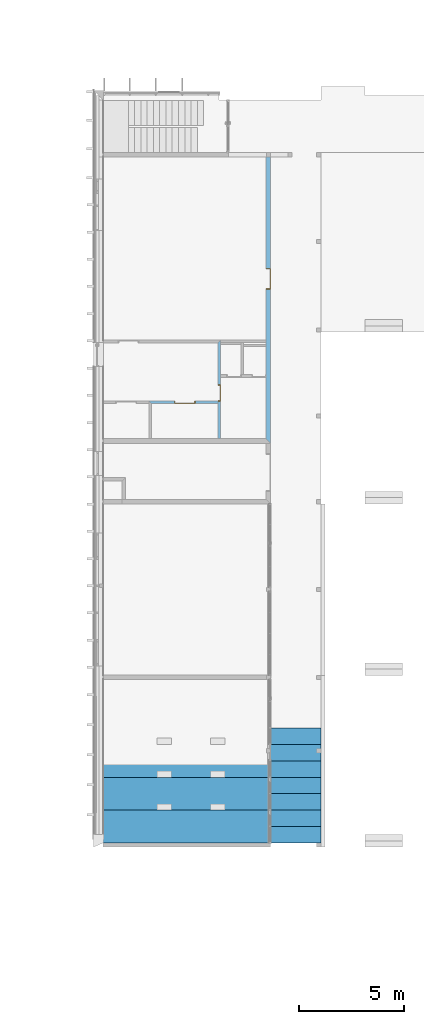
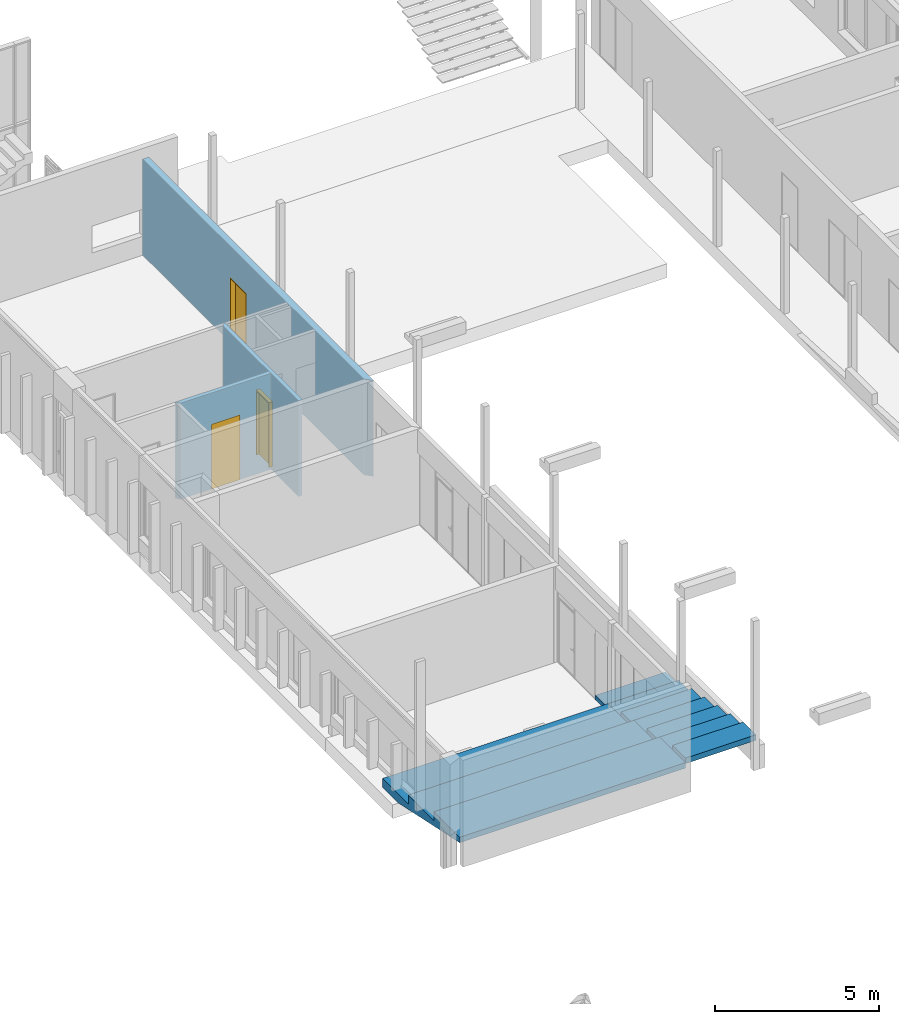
# One storey, part 27 of 65: 3 doors, 2 stairs, 3 openings, plus 3 elements that do not belong to this part.
"""IFC2X3 building model written with IfcOpenShell, lengths in millimetres."""

from ifc_helpers import new_model, entity, si_unit, converted_unit, derived_unit, money_unit, direction, frame, origin_with_axes, origin_2d_with_axis, place, context, subcontext, project, spatial, polyline, rectangle, outline, extrude, faceted_brep, material, layer, layer_set, layer_usage, type_object, element, fill, save


model = new_model("IFC2X3")

# Units and contexts
model_context = context("Model", 3, precision=0.01, world=origin_with_axes(), true_north=direction((0.0, 1.0)))
body_context = subcontext(model_context, "Body", "Model", "MODEL_VIEW")
ifc_project = project(units=[si_unit("LENGTHUNIT", "METRE", prefix="MILLI"), si_unit("AREAUNIT", "SQUARE_METRE"), si_unit("VOLUMEUNIT", "CUBIC_METRE"), converted_unit("PLANEANGLEUNIT", "DEGREE", entity("IfcPlaneAngleMeasure", 0.0174532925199), si_unit("PLANEANGLEUNIT", "RADIAN"), dimensions=[0, 0, 0, 0, 0, 0, 0]), si_unit("SOLIDANGLEUNIT", "STERADIAN"), money_unit("EUR"), converted_unit("TIMEUNIT", "Year", entity("IfcTimeMeasure", 31556926.0), si_unit("TIMEUNIT", "SECOND"), dimensions=[0, 0, 1, 0, 0, 0, 0]), si_unit("MASSUNIT", "GRAM", prefix="KILO"), si_unit("THERMODYNAMICTEMPERATUREUNIT", "DEGREE_CELSIUS"), si_unit("LUMINOUSINTENSITYUNIT", "LUMEN"), si_unit("ENERGYUNIT", "JOULE", prefix="MEGA"), derived_unit("THERMALCONDUCTANCEUNIT", [(si_unit("POWERUNIT", "WATT"), 1), (si_unit("LENGTHUNIT", "METRE"), -1), (si_unit("THERMODYNAMICTEMPERATUREUNIT", "KELVIN"), -1)]), derived_unit("SPECIFICHEATCAPACITYUNIT", [(si_unit("ENERGYUNIT", "JOULE"), 1), (si_unit("MASSUNIT", "GRAM", prefix="KILO"), -1), (si_unit("THERMODYNAMICTEMPERATUREUNIT", "KELVIN"), -1)]), derived_unit("MASSDENSITYUNIT", [(si_unit("MASSUNIT", "GRAM", prefix="KILO"), 1), (si_unit("VOLUMEUNIT", "CUBIC_METRE"), -1)])], contexts=[model_context])

# Site, building, storey
site_placement = place(None, origin_with_axes())
site = spatial("IfcSite", under=ifc_project, at=site_placement, Name="Puškini 31, Narva", CompositionType="ELEMENT")
building_placement = place(site_placement, origin_with_axes())
building = spatial("IfcBuilding", under=site, at=building_placement, Name="Narva Riigigümnaasium", CompositionType="ELEMENT")
storey_placement = place(building_placement, frame((0.0, 0.0, -1320.0), z_axis=(0.0, 0.0, 1.0), x_axis=(1.0, 0.0, 0.0)))
storey = spatial("IfcBuildingStorey", under=building, at=storey_placement, Name="1.korrus -1.32", CompositionType="ELEMENT", Elevation=-1320.0)

# Wall, opening, door
ifc_material_1 = material(Name="siseviimistlus-seinad")
ifc_layer_1 = layer(ifc_material_1, 15.0, ventilated="UNKNOWN")
ifc_material_2 = material(Name="kergbetoonplokk")
ifc_layer_2 = layer(ifc_material_2, 100.0, ventilated="UNKNOWN")
ifc_layer_set_1 = layer_set([ifc_layer_1, ifc_layer_2, ifc_layer_1], Name="G-SS-05-03")
ifc_layer_usage_1 = layer_usage(ifc_layer_set_1, "AXIS2", "NEGATIVE", 15.0)
wall_type_1 = type_object("IfcWallType", Name="G-SS-05-03 130", PredefinedType="NOTDEFINED")
wall_1_placement = place(storey_placement, frame((27999.9999994, 183210.149991, 0.0), z_axis=(0.0, 0.0, 1.0), x_axis=(0.0, -1.0, 0.0)))
wall_1 = element("IfcWallStandardCase", 1, at=wall_1_placement, inside=storey, type_object=wall_type_1, material=ifc_layer_usage_1, Name="Sisesein", context=body_context, shape_type="SweptSolid", body=[
    extrude(outline(polyline([(115.0, -115.0), (4700.14998109, -115.0), (4700.14998109, 15.0), (-15.0, 15.0), (115.0, -115.0)])), origin_with_axes(), (0.0, 0.0, 1.0), 3565.0),
])
opening_1_placement = place(wall_1_placement, frame((2510.14998117, 0.0, 0.0), z_axis=(0.0, 0.0, 1.0), x_axis=(1.0, 0.0, 0.0)))
opening_1 = element("IfcOpeningElement", 2, at=opening_1_placement, cuts=wall_1, Name="G-SU-007", context=body_context, shape_type="SweptSolid", body=[
    extrude(rectangle(XDim=800.0, YDim=2400.0, at=origin_2d_with_axis()), frame((0.0, -130.0, 1200.0), z_axis=(0.0, 1.0, 0.0), x_axis=(1.0, 0.0, 0.0)), (0.0, 0.0, 1.0), 390.0),
])
door_style_1 = type_object("IfcDoorStyle", Name="Door 23", ConstructionType="NOTDEFINED", OperationType="SINGLE_SWING_RIGHT", ParameterTakesPrecedence=False, Sizeable=False)
door_1_placement = place(opening_1_placement, frame((-400.0, 0.0, 0.0), z_axis=(0.0, 0.0, 1.0), x_axis=(1.0, 0.0, 0.0)))
door_1 = element("IfcDoor", 3, at=door_1_placement, inside=storey, type_object=door_style_1, Name="G-SU-007", ObjectType="DOOR", OverallHeight=2400.0, OverallWidth=800.0, context=body_context, shape_type="Brep", body=[
    faceted_brep([(40.0, -25.0, 0.0), (40.0, -25.0, 2360.0), (40.0, -115.0, 2360.0), (40.0, -115.0, 0.0), (28.0, -25.0, 2360.0), (28.0, -25.0, 0.0), (28.0, 15.0, 2360.0), (0.0, 15.0, 2360.0), (0.0, -115.0, 2360.0), (0.0, -115.0, 0.0), (0.0, 15.0, 0.0), (28.0, 15.0, 0.0)], [[[0, 1, 2, 3]], [[4, 1, 0, 5]], [[4, 6, 7, 8, 2, 1]], [[3, 2, 8, 9]], [[5, 0, 3, 9, 10, 11]], [[6, 4, 5, 11]], [[6, 11, 10, 7]], [[10, 9, 8, 7]]]),
    faceted_brep([(772.0, -25.0, 2360.0), (760.0, -25.0, 2360.0), (760.0, -115.0, 2360.0), (800.0, -115.0, 2360.0), (800.0, 15.0, 2360.0), (772.0, 15.0, 2360.0), (772.0, -25.0, 0.0), (760.0, -25.0, 0.0), (760.0, -115.0, 0.0), (800.0, -115.0, 0.0), (800.0, 15.0, 0.0), (772.0, 15.0, 0.0)], [[[0, 1, 2, 3, 4, 5]], [[1, 0, 6, 7]], [[1, 7, 8, 2]], [[3, 2, 8, 9]], [[4, 3, 9, 10]], [[11, 5, 4, 10]], [[0, 5, 11, 6]], [[6, 11, 10, 9, 8, 7]]]),
    faceted_brep([(28.0, 15.0, 2372.0), (28.0, 15.0, 2360.0), (0.0, 15.0, 2360.0), (0.0, 15.0, 2400.0), (800.0, 15.0, 2400.0), (800.0, 15.0, 2360.0), (772.0, 15.0, 2360.0), (772.0, 15.0, 2372.0), (28.0, -25.0, 2372.0), (28.0, -25.0, 2360.0), (40.0, -25.0, 2360.0), (40.0, -115.0, 2360.0), (0.0, -115.0, 2360.0), (0.0, -115.0, 2400.0), (800.0, -115.0, 2400.0), (800.0, -115.0, 2360.0), (772.0, -25.0, 2360.0), (760.0, -115.0, 2360.0), (760.0, -25.0, 2360.0), (772.0, -25.0, 2372.0)], [[[0, 1, 2, 3, 4, 5, 6, 7]], [[1, 0, 8, 9]], [[9, 10, 11, 12, 2, 1]], [[2, 12, 13, 3]], [[3, 13, 14, 4]], [[4, 14, 15, 5]], [[16, 6, 5, 15, 17, 18]], [[7, 6, 16, 19]], [[0, 7, 19, 8]], [[16, 18, 10, 9, 8, 19]], [[10, 18, 17, 11]], [[17, 15, 14, 13, 12, 11]]]),
    faceted_brep([(772.0, 15.0, 0.0), (772.0, -25.0, 0.0), (28.0, -25.0, 0.0), (28.0, 15.0, 0.0), (772.0, 15.0, 2372.0), (772.0, -25.0, 2372.0), (28.0, -25.0, 2372.0), (28.0, 15.0, 2372.0)], [[[0, 1, 2, 3]], [[4, 5, 1, 0]], [[1, 5, 6, 2]], [[3, 2, 6, 7]], [[0, 3, 7, 4]], [[7, 6, 5, 4]]]),
])
fill(opening_1, door_1)

wall_2_placement = place(storey_placement, frame((27999.9999994, 180200.00001, 0.0), z_axis=(0.0, 0.0, 1.0), x_axis=(-1.0, 0.0, 0.0)))
wall_2 = element("IfcWallStandardCase", 4, at=wall_2_placement, inside=storey, type_object=wall_type_1, material=ifc_layer_usage_1, Name="Sisesein", context=body_context, shape_type="SweptSolid", body=[
    extrude(outline(polyline([(115.0, -115.0), (3415.00000076, -115.0), (3285.00000076, 15.0), (115.0, 15.0), (115.0, -115.0)])), origin_with_axes(), (0.0, 0.0, 1.0), 3565.0),
])
opening_2_placement = place(wall_2_placement, frame((1700.00000039, 0.0, 0.0), z_axis=(0.0, 0.0, 1.0), x_axis=(1.0, 0.0, 0.0)))
opening_2 = element("IfcOpeningElement", 5, at=opening_2_placement, cuts=wall_2, Name="G-SU-006", context=body_context, shape_type="SweptSolid", body=[
    extrude(rectangle(XDim=1000.0, YDim=2400.0, at=origin_2d_with_axis()), frame((0.0, -130.0, 1200.0), z_axis=(0.0, -1.0, 0.0), x_axis=(-1.0, 0.0, 0.0)), (0.0, 0.0, -1.0), 390.0),
])
door_style_2 = type_object("IfcDoorStyle", Name="Door 23", ConstructionType="NOTDEFINED", OperationType="SINGLE_SWING_LEFT", ParameterTakesPrecedence=False, Sizeable=False)
door_2_placement = place(opening_2_placement, frame((-500.0, 0.0, 0.0), z_axis=(0.0, 0.0, 1.0), x_axis=(1.0, 0.0, 0.0)))
door_2 = element("IfcDoor", 6, at=door_2_placement, inside=storey, type_object=door_style_2, Name="G-SU-006", ObjectType="DOOR", OverallHeight=2400.0, OverallWidth=1000.0, context=body_context, shape_type="Brep", body=[
    faceted_brep([(960.0, -25.0, 0.0), (960.0, -115.0, 0.0), (960.0, -115.0, 2360.0), (960.0, -25.0, 2360.0), (972.0, -25.0, 0.0), (972.0, 15.0, 0.0), (1000.0, 15.0, 0.0), (1000.0, -115.0, 0.0), (1000.0, -115.0, 2360.0), (972.0, -25.0, 2360.0), (1000.0, 15.0, 2360.0), (972.0, 15.0, 2360.0)], [[[0, 1, 2, 3]], [[4, 5, 6, 7, 1, 0]], [[1, 7, 8, 2]], [[9, 3, 2, 8, 10, 11]], [[9, 4, 0, 3]], [[11, 5, 4, 9]], [[11, 10, 6, 5]], [[6, 10, 8, 7]]]),
    faceted_brep([(28.0, -25.0, 2360.0), (28.0, 15.0, 2360.0), (0.0, 15.0, 2360.0), (0.0, -115.0, 2360.0), (40.0, -115.0, 2360.0), (40.0, -25.0, 2360.0), (28.0, -25.0, 0.0), (28.0, 15.0, 0.0), (0.0, 15.0, 0.0), (0.0, -115.0, 0.0), (40.0, -115.0, 0.0), (40.0, -25.0, 0.0)], [[[0, 1, 2, 3, 4, 5]], [[0, 6, 7, 1]], [[7, 8, 2, 1]], [[2, 8, 9, 3]], [[3, 9, 10, 4]], [[5, 4, 10, 11]], [[5, 11, 6, 0]], [[6, 11, 10, 9, 8, 7]]]),
    faceted_brep([(972.0, 15.0, 2372.0), (28.0, 15.0, 2372.0), (28.0, 15.0, 2360.0), (0.0, 15.0, 2360.0), (0.0, 15.0, 2400.0), (1000.0, 15.0, 2400.0), (1000.0, 15.0, 2360.0), (972.0, 15.0, 2360.0), (972.0, -25.0, 2372.0), (28.0, -25.0, 2372.0), (28.0, -25.0, 2360.0), (40.0, -25.0, 2360.0), (40.0, -115.0, 2360.0), (0.0, -115.0, 2360.0), (0.0, -115.0, 2400.0), (1000.0, -115.0, 2400.0), (1000.0, -115.0, 2360.0), (972.0, -25.0, 2360.0), (960.0, -115.0, 2360.0), (960.0, -25.0, 2360.0)], [[[0, 1, 2, 3, 4, 5, 6, 7]], [[0, 8, 9, 1]], [[1, 9, 10, 2]], [[10, 11, 12, 13, 3, 2]], [[4, 3, 13, 14]], [[5, 4, 14, 15]], [[6, 5, 15, 16]], [[17, 7, 6, 16, 18, 19]], [[7, 17, 8, 0]], [[10, 9, 8, 17, 19, 11]], [[19, 18, 12, 11]], [[12, 18, 16, 15, 14, 13]]]),
    faceted_brep([(28.0, 15.0, 0.0), (972.0, 15.0, 0.0), (972.0, -25.0, 0.0), (28.0, -25.0, 0.0), (28.0, 15.0, 2372.0), (972.0, 15.0, 2372.0), (972.0, -25.0, 2372.0), (28.0, -25.0, 2372.0)], [[[0, 1, 2, 3]], [[0, 4, 5, 1]], [[1, 5, 6, 2]], [[3, 2, 6, 7]], [[4, 0, 3, 7]], [[5, 4, 7, 6]]]),
])
fill(opening_2, door_2)

ifc_material_3 = material(Name="Betoon element")
ifc_layer_3 = layer(ifc_material_3, 200.0, ventilated="UNKNOWN")
ifc_layer_set_2 = layer_set([ifc_layer_3, ifc_layer_1], Name="G-SS-01-03")
ifc_layer_usage_2 = layer_usage(ifc_layer_set_2, "AXIS2", "NEGATIVE", 0.0)
wall_type_2 = type_object("IfcWallType", Name="G-SS-01-03 215", PredefinedType="NOTDEFINED")
wall_3_placement = place(storey_placement, frame((30399.9999994, 192180.0, 0.0), z_axis=(0.0, 0.0, 1.0), x_axis=(0.0, -1.0, 0.0)))
wall_3 = element("IfcWallStandardCase", 7, at=wall_3_placement, inside=storey, type_object=wall_type_2, material=ifc_layer_usage_2, Name="Sisesein", context=body_context, shape_type="SweptSolid", body=[
    extrude(outline(polyline([(215.0, -215.0), (13669.9999896, -215.0), (13889.9999896, 0.0), (215.0, 0.0), (215.0, -215.0)])), origin_with_axes(), (0.0, 0.0, 1.0), 3565.0),
])
opening_3_placement = place(wall_3_placement, frame((6029.99999998, 0.0, 0.0), z_axis=(0.0, 0.0, 1.0), x_axis=(1.0, 0.0, 0.0)))
opening_3 = element("IfcOpeningElement", 8, at=opening_3_placement, cuts=wall_3, Name="G-SU-003", context=body_context, shape_type="SweptSolid", body=[
    extrude(rectangle(XDim=999.999999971, YDim=2400.0, at=origin_2d_with_axis()), frame((0.0, -215.0, 1200.0), z_axis=(0.0, 1.0, 0.0), x_axis=(1.0, 0.0, 0.0)), (0.0, 0.0, 1.0), 645.0),
])
door_style_3 = type_object("IfcDoorStyle", Name="Door 23", ConstructionType="NOTDEFINED", OperationType="DOUBLE_SWING_RIGHT", ParameterTakesPrecedence=False, Sizeable=False)
door_3_placement = place(opening_3_placement, frame((-499.999999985, 0.0, 0.0), z_axis=(0.0, 0.0, 1.0), x_axis=(1.0, 0.0, 0.0)))
door_3 = element("IfcDoor", 9, at=door_3_placement, inside=storey, type_object=door_style_3, Name="G-SU-003", ObjectType="DOOR", OverallHeight=2400.0, OverallWidth=1000.0, context=body_context, shape_type="Brep", body=[
    faceted_brep([(0.0, 0.0, 0.0), (40.0, 0.0, 0.0), (40.0, -215.0, 0.0), (0.0, -215.0, 0.0), (0.0, 0.0, 2360.0), (40.0, 0.0, 2360.0), (40.0, -215.0, 2360.0), (0.0, -215.0, 2360.0)], [[[0, 1, 2, 3]], [[0, 4, 5, 1]], [[1, 5, 6, 2]], [[3, 2, 6, 7]], [[4, 0, 3, 7]], [[5, 4, 7, 6]]]),
    faceted_brep([(999.999999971, 0.0, 0.0), (999.999999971, 0.0, 2360.0), (999.999999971, -215.0, 2360.0), (999.999999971, -215.0, 0.0), (959.999999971, 0.0, 0.0), (959.999999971, 0.0, 2360.0), (959.999999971, -215.0, 2360.0), (959.999999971, -215.0, 0.0)], [[[0, 1, 2, 3]], [[0, 4, 5, 1]], [[1, 5, 6, 2]], [[3, 2, 6, 7]], [[4, 0, 3, 7]], [[5, 4, 7, 6]]]),
    faceted_brep([(0.0, 0.0, 2400.0), (0.0, 0.0, 2360.0), (0.0, -215.0, 2360.0), (0.0, -215.0, 2400.0), (999.999999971, 0.0, 2400.0), (999.999999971, 0.0, 2360.0), (959.999999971, 0.0, 2360.0), (40.0, 0.0, 2360.0), (40.0, -215.0, 2360.0), (959.999999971, -215.0, 2360.0), (999.999999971, -215.0, 2360.0), (999.999999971, -215.0, 2400.0)], [[[0, 1, 2, 3]], [[0, 4, 5, 6, 7, 1]], [[1, 7, 8, 2]], [[3, 2, 8, 9, 10, 11]], [[4, 0, 3, 11]], [[5, 4, 11, 10]], [[6, 5, 10, 9]], [[7, 6, 9, 8]]]),
    faceted_brep([(959.999999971, 0.0, 0.0), (959.999999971, -40.0, 0.0), (40.0, -40.0, 0.0), (40.0, 0.0, 0.0), (959.999999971, 0.0, 2360.0), (959.999999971, -40.0, 2360.0), (40.0, -40.0, 2360.0), (40.0, 0.0, 2360.0)], [[[0, 1, 2, 3]], [[4, 5, 1, 0]], [[1, 5, 6, 2]], [[3, 2, 6, 7]], [[0, 3, 7, 4]], [[7, 6, 5, 4]]]),
])
fill(opening_3, door_3)

# Stairs
ifc_material_4 = material(Name="KON-04_Betoon - Konstuktsioon")
stair_1_placement = place(storey_placement, frame((30319.5860317, 164937.401089, 0.0), z_axis=(0.0, 0.0, 1.0), x_axis=(0.999999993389, 0.000114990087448, 0.0)))
element("IfcStair", 10, at=stair_1_placement, inside=storey, material=ifc_material_4, Name="G-TR-01", ShapeType="NOTDEFINED", context=body_context, shape_type="Brep", body=[
    faceted_brep([(2480.27313606, -1224.87694867, 0.0), (2480.38471112, -254.586311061, 0.0), (2480.38471112, -254.586311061, 165.0), (2480.29463837, -1037.88630588, 165.0), (2480.29463837, -1037.88630588, 330.0), (2480.20456562, -1821.1863007, 330.0), (2480.20456562, -1821.1863007, 495.0), (2480.11449287, -2604.48629552, 495.0), (2480.11449287, -2604.48629552, 660.0), (2480.02442012, -3387.78629035, 660.0), (2480.02442012, -3387.78629035, 825.0), (2479.93434736, -4171.08628517, 825.0), (2479.93434736, -4171.08628517, 990.0), (2479.84427461, -4954.38627999, 990.0), (2479.84427461, -4954.38627999, 1155.0), (2479.75420186, -5737.68627481, 1155.0), (2479.75420186, -5737.68627481, 950.610932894), (2479.76546095, -5639.77377546, 929.985932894), (2479.77672005, -5541.8612761, 909.360932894), (2479.78797914, -5443.94877675, 888.735932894), (2479.79923823, -5346.0362774, 868.110932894), (2479.81049733, -5248.12377805, 847.485932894), (2479.82175642, -5150.21127869, 826.860932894), (2479.83301552, -5052.29877934, 806.235932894), (2479.84427461, -4954.38627999, 785.610932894), (2479.85553371, -4856.47378064, 764.985932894), (2479.8667928, -4758.56128128, 744.360932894), (2479.87805189, -4660.64878193, 723.735932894), (2479.88931099, -4562.73628258, 703.110932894), (2479.90057008, -4464.82378323, 682.485932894), (2479.91182918, -4366.91128387, 661.860932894), (2479.92308827, -4268.99878452, 641.235932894), (2479.93434736, -4171.08628517, 620.610932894), (2479.94560646, -4073.17378581, 599.985932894), (2479.95686555, -3975.26128646, 579.360932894), (2479.96812465, -3877.34878711, 558.735932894), (2479.97938374, -3779.43628776, 538.110932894), (2479.99064283, -3681.5237884, 517.485932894), (2480.00190193, -3583.61128905, 496.860932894), (2480.01316102, -3485.6987897, 476.235932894), (2480.02442012, -3387.78629035, 455.610932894), (2480.03567921, -3289.87379099, 434.985932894), (2480.0469383, -3191.96129164, 414.360932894), (2480.0581974, -3094.04879229, 393.735932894), (2480.06945649, -2996.13629294, 373.110932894), (2480.08071559, -2898.22379358, 352.485932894), (2480.09197468, -2800.31129423, 331.860932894), (2480.10323377, -2702.39879488, 311.235932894), (2480.11449287, -2604.48629552, 290.610932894), (2480.12575196, -2506.57379617, 269.985932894), (2480.13701106, -2408.66129682, 249.360932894), (2480.14827015, -2310.74879747, 228.735932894), (2480.15952924, -2212.83629811, 208.110932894), (2480.17078834, -2114.92379876, 187.485932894), (2480.18204743, -2017.01129941, 166.860932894), (2480.19330653, -1919.09880006, 146.235932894), (2480.20456562, -1821.1863007, 125.610932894), (2480.21582471, -1723.27380135, 104.985932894), (2480.22708381, -1625.361302, 84.3609328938), (2480.2383429, -1527.44880265, 63.7359328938), (2480.249602, -1429.53630329, 43.1109328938), (2480.26086109, -1331.62380394, 22.4859328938), (2480.27212018, -1233.71130459, 1.86093289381), (0.384727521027, -254.301132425, 0.0), (0.273152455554, -1224.59177004, 0.0), (0.384727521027, -254.301132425, 165.0), (0.294654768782, -1037.60112725, 165.0), (0.294654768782, -1037.60112725, 330.0), (0.204582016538, -1820.90112207, 330.0), (0.204582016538, -1820.90112207, 495.0), (0.114509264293, -2604.20111689, 495.0), (0.114509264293, -2604.20111689, 660.0), (0.0244365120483, -3387.50111171, 660.0), (0.0244365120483, -3387.50111171, 825.0), (-0.0656362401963, -4170.80110653, 825.0), (-0.0656362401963, -4170.80110653, 990.0), (-0.155708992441, -4954.10110135, 990.0), (-0.155708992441, -4954.10110135, 1155.0), (-0.245781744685, -5737.40109617, 1155.0), (-0.245781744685, -5737.40109617, 950.610932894), (-0.234522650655, -5639.48859682, 929.985932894), (-0.223263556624, -5541.57609747, 909.360932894), (-0.212004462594, -5443.66359812, 888.735932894), (-0.200745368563, -5345.75109876, 868.110932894), (-0.189486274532, -5247.83859941, 847.485932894), (-0.178227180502, -5149.92610006, 826.860932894), (-0.166968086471, -5052.01360071, 806.235932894), (-0.155708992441, -4954.10110135, 785.610932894), (-0.14444989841, -4856.188602, 764.985932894), (-0.13319080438, -4758.27610265, 744.360932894), (-0.121931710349, -4660.36360329, 723.735932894), (-0.110672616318, -4562.45110394, 703.110932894), (-0.0994135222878, -4464.53860459, 682.485932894), (-0.0881544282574, -4366.62610524, 661.860932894), (-0.0768953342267, -4268.71360588, 641.235932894), (-0.0656362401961, -4170.80110653, 620.610932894), (-0.0543771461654, -4072.88860718, 599.985932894), (-0.043118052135, -3974.97610783, 579.360932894), (-0.0318589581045, -3877.06360847, 558.735932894), (-0.0205998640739, -3779.15110912, 538.110932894), (-0.00934077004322, -3681.23860977, 517.485932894), (0.00191832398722, -3583.32611042, 496.860932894), (0.0131774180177, -3485.41361106, 476.235932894), (0.0244365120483, -3387.50111171, 455.610932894), (0.035695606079, -3289.58861236, 434.985932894), (0.0469547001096, -3191.676113, 414.360932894), (0.0582137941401, -3093.76361365, 393.735932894), (0.0694728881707, -2995.8511143, 373.110932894), (0.0807319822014, -2897.93861495, 352.485932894), (0.091991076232, -2800.02611559, 331.860932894), (0.103250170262, -2702.11361624, 311.235932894), (0.114509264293, -2604.20111689, 290.610932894), (0.125768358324, -2506.28861754, 269.985932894), (0.137027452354, -2408.37611818, 249.360932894), (0.148286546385, -2310.46361883, 228.735932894), (0.159545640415, -2212.55111948, 208.110932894), (0.170804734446, -2114.63862013, 187.485932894), (0.182063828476, -2016.72612077, 166.860932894), (0.193322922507, -1918.81362142, 146.235932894), (0.204582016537, -1820.90112207, 125.610932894), (0.215841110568, -1722.98862271, 104.985932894), (0.227100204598, -1625.07612336, 84.3609328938), (0.238359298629, -1527.16362401, 63.7359328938), (0.249618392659, -1429.25112466, 43.1109328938), (0.26087748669, -1331.3386253, 22.4859328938), (0.272136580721, -1233.42612595, 1.86093289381)], [[[0, 1, 2, 3, 4, 5, 6, 7, 8, 9, 10, 11, 12, 13, 14, 15, 16, 17, 18, 19, 20, 21, 22, 23, 24, 25, 26, 27, 28, 29, 30, 31, 32, 33, 34, 35, 36, 37, 38, 39, 40, 41, 42, 43, 44, 45, 46, 47, 48, 49, 50, 51, 52, 53, 54, 55, 56, 57, 58, 59, 60, 61, 62]], [[63, 1, 0, 64]], [[1, 63, 65, 2]], [[2, 65, 66, 3]], [[67, 4, 3, 66]], [[4, 67, 68, 5]], [[69, 6, 5, 68]], [[6, 69, 70, 7]], [[71, 8, 7, 70]], [[8, 71, 72, 9]], [[73, 10, 9, 72]], [[10, 73, 74, 11]], [[75, 12, 11, 74]], [[12, 75, 76, 13]], [[77, 14, 13, 76]], [[77, 78, 15, 14]], [[78, 79, 16, 15]], [[80, 17, 16, 79]], [[81, 18, 17, 80]], [[82, 19, 18, 81]], [[83, 20, 19, 82]], [[84, 21, 20, 83]], [[85, 22, 21, 84]], [[86, 23, 22, 85]], [[87, 24, 23, 86]], [[88, 25, 24, 87]], [[89, 26, 25, 88]], [[90, 27, 26, 89]], [[91, 28, 27, 90]], [[92, 29, 28, 91]], [[93, 30, 29, 92]], [[94, 31, 30, 93]], [[95, 32, 31, 94]], [[96, 33, 32, 95]], [[97, 34, 33, 96]], [[98, 35, 34, 97]], [[99, 36, 35, 98]], [[100, 37, 36, 99]], [[101, 38, 37, 100]], [[102, 39, 38, 101]], [[103, 40, 39, 102]], [[104, 41, 40, 103]], [[105, 42, 41, 104]], [[106, 43, 42, 105]], [[107, 44, 43, 106]], [[108, 45, 44, 107]], [[109, 46, 45, 108]], [[110, 47, 46, 109]], [[111, 48, 47, 110]], [[112, 49, 48, 111]], [[113, 50, 49, 112]], [[114, 51, 50, 113]], [[115, 52, 51, 114]], [[116, 53, 52, 115]], [[117, 54, 53, 116]], [[118, 55, 54, 117]], [[119, 56, 55, 118]], [[120, 57, 56, 119]], [[121, 58, 57, 120]], [[122, 59, 58, 121]], [[123, 60, 59, 122]], [[124, 61, 60, 123]], [[125, 62, 61, 124]], [[64, 0, 62, 125]], [[81, 80, 79, 78, 77, 76, 75, 74, 73, 72, 71, 70, 69, 68, 67, 66, 65, 63, 64, 125, 124, 123, 122, 121, 120, 119, 118, 117, 116, 115, 114, 113, 112, 111, 110, 109, 108, 107, 106, 105, 104, 103, 102, 101, 100, 99, 98, 97, 96, 95, 94, 93, 92, 91, 90, 89, 88, 87, 86, 85, 84, 83, 82]]]),
])
stair_2_placement = place(storey_placement, frame((22399.5860288, 164154.101094, 0.0), z_axis=(0.0, 0.0, 1.0), x_axis=(0.999999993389, 0.000114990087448, 0.0)))
element("IfcStair", 11, at=stair_2_placement, inside=storey, material=ifc_material_4, Name="klass G-106 astmestik", ShapeType="NOTDEFINED", context=body_context, shape_type="Brep", body=[
    faceted_brep([(7920.27310269, -1225.5024961, 0.0), (7920.38467706, -255.211858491, 0.0), (7920.38467706, -255.211858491, 330.0), (7920.20453268, -1821.81184813, 330.0), (7920.20453268, -1821.81184813, 660.0), (7920.02438831, -3388.41183778, 660.0), (7920.02438831, -3388.41183778, 990.0), (7919.84424393, -4955.01182742, 990.0), (7919.84424393, -4955.01182742, 785.610932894), (7919.85550295, -4857.09932807, 764.985932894), (7919.86676198, -4759.18682871, 744.360932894), (7919.878021, -4661.27432936, 723.735932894), (7919.88928002, -4563.36183001, 703.110932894), (7919.90053905, -4465.44933065, 682.485932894), (7919.91179807, -4367.5368313, 661.860932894), (7919.92305709, -4269.62433195, 641.235932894), (7919.93431612, -4171.7118326, 620.610932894), (7919.94557514, -4073.79933324, 599.985932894), (7919.95683416, -3975.88683389, 579.360932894), (7919.96809319, -3877.97433454, 558.735932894), (7919.97935221, -3780.06183519, 538.110932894), (7919.99061123, -3682.14933583, 517.485932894), (7920.00187026, -3584.23683648, 496.860932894), (7920.01312928, -3486.32433713, 476.235932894), (7920.02438831, -3388.41183778, 455.610932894), (7920.03564733, -3290.49933842, 434.985932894), (7920.04690635, -3192.58683907, 414.360932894), (7920.05816538, -3094.67433972, 393.735932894), (7920.0694244, -2996.76184037, 373.110932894), (7920.08068342, -2898.84934101, 352.485932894), (7920.09194245, -2800.93684166, 331.860932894), (7920.10320147, -2703.02434231, 311.235932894), (7920.11446049, -2605.11184295, 290.610932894), (7920.12571952, -2507.1993436, 269.985932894), (7920.13697854, -2409.28684425, 249.360932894), (7920.14823756, -2311.3743449, 228.735932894), (7920.15949659, -2213.46184554, 208.110932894), (7920.17075561, -2115.54934619, 187.485932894), (7920.18201463, -2017.63684684, 166.860932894), (7920.19327366, -1919.72434749, 146.235932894), (7920.20453268, -1821.81184813, 125.610932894), (7920.2157917, -1723.89934878, 104.985932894), (7920.22705073, -1625.98684943, 84.3609328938), (7920.23830975, -1528.07435008, 63.7359328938), (7920.24956877, -1430.16185072, 43.1109328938), (7920.2608278, -1332.24935137, 22.4859328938), (7920.27208682, -1234.33685202, 1.86093289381), (0.384727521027, -254.301132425, 0.0), (0.273153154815, -1224.59177004, 0.0), (0.384727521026, -254.301132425, 330.0), (0.204583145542, -1820.90112207, 330.0), (0.204583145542, -1820.90112207, 660.0), (0.024438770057, -3387.50111171, 660.0), (0.024438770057, -3387.50111171, 990.0), (-0.155705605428, -4954.10110135, 990.0), (-0.155705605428, -4954.10110135, 785.610932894), (-0.14444658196, -4856.188602, 764.985932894), (-0.133187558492, -4758.27610265, 744.360932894), (-0.121928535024, -4660.36360329, 723.735932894), (-0.110669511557, -4562.45110394, 703.110932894), (-0.0994104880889, -4464.53860459, 682.485932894), (-0.0881514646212, -4366.62610524, 661.860932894), (-0.0768924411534, -4268.71360588, 641.235932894), (-0.0656334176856, -4170.80110653, 620.610932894), (-0.0543743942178, -4072.88860718, 599.985932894), (-0.0431153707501, -3974.97610783, 579.360932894), (-0.0318563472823, -3877.06360847, 558.735932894), (-0.0205973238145, -3779.15110912, 538.110932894), (-0.00933830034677, -3681.23860977, 517.485932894), (0.00192072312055, -3583.32611042, 496.860932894), (0.0131797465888, -3485.41361106, 476.235932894), (0.0244387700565, -3387.50111171, 455.610932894), (0.0356977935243, -3289.58861236, 434.985932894), (0.0469568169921, -3191.676113, 414.360932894), (0.0582158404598, -3093.76361365, 393.735932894), (0.0694748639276, -2995.8511143, 373.110932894), (0.0807338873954, -2897.93861495, 352.485932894), (0.0919929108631, -2800.02611559, 331.860932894), (0.103251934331, -2702.11361624, 311.235932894), (0.114510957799, -2604.20111689, 290.610932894), (0.125769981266, -2506.28861754, 269.985932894), (0.137029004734, -2408.37611818, 249.360932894), (0.148288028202, -2310.46361883, 228.735932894), (0.15954705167, -2212.55111948, 208.110932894), (0.170806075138, -2114.63862013, 187.485932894), (0.182065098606, -2016.72612077, 166.860932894), (0.193324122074, -1918.81362142, 146.235932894), (0.204583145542, -1820.90112207, 125.610932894), (0.21584216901, -1722.98862272, 104.985932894), (0.227101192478, -1625.07612336, 84.3609328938), (0.238360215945, -1527.16362401, 63.7359328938), (0.249619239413, -1429.25112466, 43.1109328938), (0.260878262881, -1331.3386253, 22.4859328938), (0.272137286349, -1233.42612595, 1.86093289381)], [[[0, 1, 2, 3, 4, 5, 6, 7, 8, 9, 10, 11, 12, 13, 14, 15, 16, 17, 18, 19, 20, 21, 22, 23, 24, 25, 26, 27, 28, 29, 30, 31, 32, 33, 34, 35, 36, 37, 38, 39, 40, 41, 42, 43, 44, 45, 46]], [[47, 1, 0, 48]], [[1, 47, 49, 2]], [[2, 49, 50, 3]], [[51, 4, 3, 50]], [[4, 51, 52, 5]], [[53, 6, 5, 52]], [[53, 54, 7, 6]], [[54, 55, 8, 7]], [[56, 9, 8, 55]], [[57, 10, 9, 56]], [[58, 11, 10, 57]], [[59, 12, 11, 58]], [[60, 13, 12, 59]], [[61, 14, 13, 60]], [[62, 15, 14, 61]], [[63, 16, 15, 62]], [[64, 17, 16, 63]], [[65, 18, 17, 64]], [[66, 19, 18, 65]], [[67, 20, 19, 66]], [[68, 21, 20, 67]], [[69, 22, 21, 68]], [[70, 23, 22, 69]], [[71, 24, 23, 70]], [[72, 25, 24, 71]], [[73, 26, 25, 72]], [[74, 27, 26, 73]], [[75, 28, 27, 74]], [[76, 29, 28, 75]], [[77, 30, 29, 76]], [[78, 31, 30, 77]], [[79, 32, 31, 78]], [[80, 33, 32, 79]], [[81, 34, 33, 80]], [[82, 35, 34, 81]], [[83, 36, 35, 82]], [[84, 37, 36, 83]], [[85, 38, 37, 84]], [[86, 39, 38, 85]], [[87, 40, 39, 86]], [[88, 41, 40, 87]], [[89, 42, 41, 88]], [[90, 43, 42, 89]], [[91, 44, 43, 90]], [[92, 45, 44, 91]], [[93, 46, 45, 92]], [[48, 0, 46, 93]], [[57, 56, 55, 54, 53, 52, 51, 50, 49, 47, 48, 93, 92, 91, 90, 89, 88, 87, 86, 85, 84, 83, 82, 81, 80, 79, 78, 77, 76, 75, 74, 73, 72, 71, 70, 69, 68, 67, 66, 65, 64, 63, 62, 61, 60, 59, 58]]]),
])

save(model, "model.ifc")
